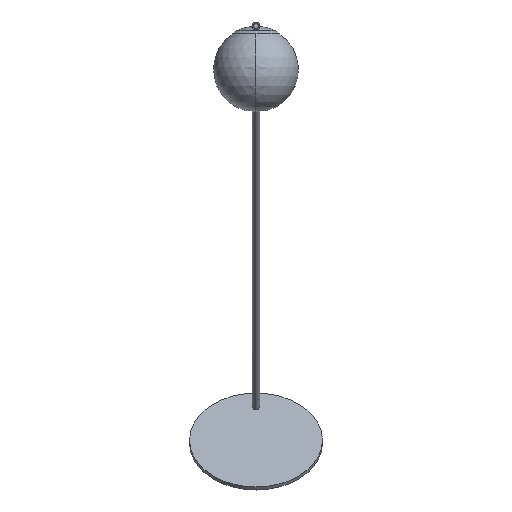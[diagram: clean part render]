
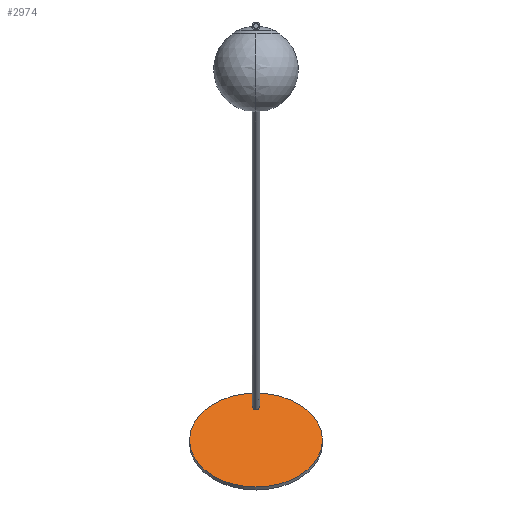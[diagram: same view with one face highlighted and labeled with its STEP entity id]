
A CAD part, top view. The second image highlights one B-rep face of the part: STEP entity #2974.
In plain terms, the highlighted planar face has unit normal (0, 0.707, 0.707).
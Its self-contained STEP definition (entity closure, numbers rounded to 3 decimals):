
#2907=CARTESIAN_POINT('',(0.001,-718.177,
-708.479));
#2908=DIRECTION('',(0.,0.707,0.707));
#2909=DIRECTION('',(1.,0.,0.));
#2910=AXIS2_PLACEMENT_3D('',#2907,#2908,#2909);
#2912=CARTESIAN_POINT('',(0.001,-718.177,
-708.479));
#2913=DIRECTION('',(0.,0.707,0.707));
#2914=DIRECTION('',(-1.,0.,0.));
#2915=AXIS2_PLACEMENT_3D('',#2912,#2913,#2914);
#2921=CARTESIAN_POINT('',(125.001,-718.176,
-708.48));
#2922=CARTESIAN_POINT('',(-124.999,-718.178,
-708.477));
#2923=VERTEX_POINT('',#2921);
#2924=VERTEX_POINT('',#2922);
#2965=CARTESIAN_POINT('',(0.001,-718.177,
-708.479));
#2966=DIRECTION('',(0.,0.707,0.707));
#2967=DIRECTION('',(1.,0.,0.));
#2968=AXIS2_PLACEMENT_3D('',#2965,#2966,#2967);
#2969=PLANE('',#2968);
#2970=ORIENTED_EDGE('',*,*,#2945,.F.);
#2971=ORIENTED_EDGE('',*,*,#2959,.F.);
#2972=EDGE_LOOP('',(#2970,#2971));
#2973=FACE_OUTER_BOUND('',#2972,.F.);
#2974=ADVANCED_FACE('',(#2973),#2969,.T.);
#2911=CIRCLE('',#2910,125.);
#2916=CIRCLE('',#2915,125.);
#2945=EDGE_CURVE('',#2923,#2924,#2911,.T.);
#2959=EDGE_CURVE('',#2924,#2923,#2916,.T.);
